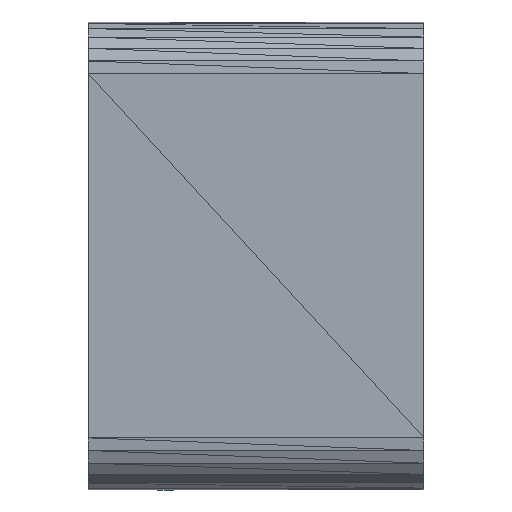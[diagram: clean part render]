
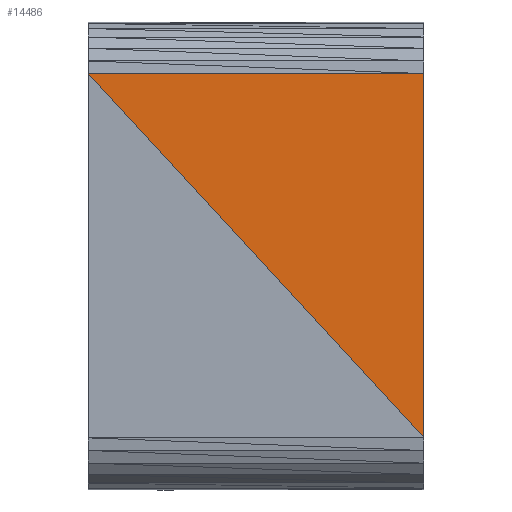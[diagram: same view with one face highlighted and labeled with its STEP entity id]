
A CAD part, top view. The second image highlights one B-rep face of the part: STEP entity #14486.
In plain terms, the highlighted free-form (B-spline) face has degree [1, 1] with [2, 2] control points.
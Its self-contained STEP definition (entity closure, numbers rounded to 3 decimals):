
#14259 = CARTESIAN_POINT ('', (3.25, 3.525, 3.));
#14265 = VERTEX_POINT ('', #14259);
#14336 = CARTESIAN_POINT ('', (-3.25, 3.525, 3.));
#14342 = VERTEX_POINT ('', #14336);
#14343 = CARTESIAN_POINT ('', (-3.25, 3.525, 3.));
#14349 = CARTESIAN_POINT ('', (3.25, 3.525, 3.));
#14355 = B_SPLINE_CURVE_WITH_KNOTS ('', 1, (#14343, #14349), .UNSPECIFIED., .F., .U., (2, 2), (0., 1.), .UNSPECIFIED.);
#14361 = EDGE_CURVE ('', #14342, #14265, #14355, .T.);
#14411 = CARTESIAN_POINT ('', (3.25, -3.525, 3.));
#14417 = VERTEX_POINT ('', #14411);
#14418 = CARTESIAN_POINT ('', (-3.25, 3.525, 3.));
#14424 = CARTESIAN_POINT ('', (3.25, -3.525, 3.));
#14430 = B_SPLINE_CURVE_WITH_KNOTS ('', 1, (#14418, #14424), .UNSPECIFIED., .F., .U., (2, 2), (0., 1.), .UNSPECIFIED.);
#14436 = EDGE_CURVE ('', #14342, #14417, #14430, .T.);
#14437 = ORIENTED_EDGE ('', *, *, #14436, .F.);
#14438 = ORIENTED_EDGE ('', *, *, #14361, .T.);
#14439 = CARTESIAN_POINT ('', (3.25, 3.525, 3.));
#14445 = CARTESIAN_POINT ('', (3.25, -3.525, 3.));
#14451 = B_SPLINE_CURVE_WITH_KNOTS ('', 1, (#14439, #14445), .UNSPECIFIED., .F., .U., (2, 2), (0., 1.), .UNSPECIFIED.);
#14457 = EDGE_CURVE ('', #14265, #14417, #14451, .T.);
#14458 = ORIENTED_EDGE ('', *, *, #14457, .T.);
#14459 = EDGE_LOOP ('', (#14437, #14438, #14458));
#14460 = FACE_OUTER_BOUND ('', #14459, .F.);
#14461 = CARTESIAN_POINT ('', (-6.765, 0.286, 3.));
#14467 = CARTESIAN_POINT ('', (-0.263, -6.766, 3.));
#14473 = CARTESIAN_POINT ('', (0.263, 6.766, 3.));
#14479 = CARTESIAN_POINT ('', (6.765, -0.286, 3.));
#14485 = B_SPLINE_SURFACE_WITH_KNOTS ('', 1, 1, ((#14461, #14467), (#14473, #14479)), .UNSPECIFIED., .F., .F., .U., (2, 2), (2, 2), (-4.78, 4.78), (-0.001, 9.591), .UNSPECIFIED.);
#14486 = ADVANCED_FACE ('', (#14460), #14485, .F.);
